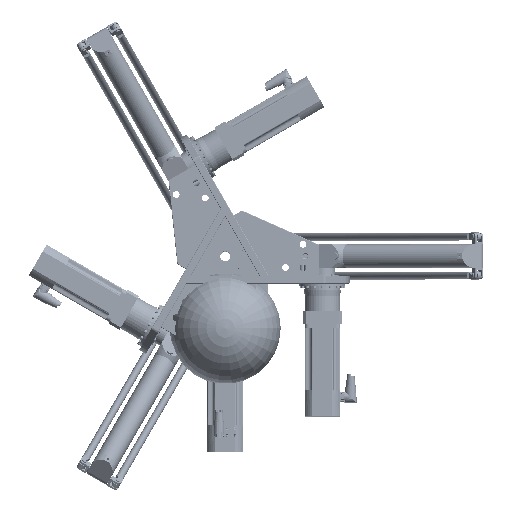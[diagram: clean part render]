
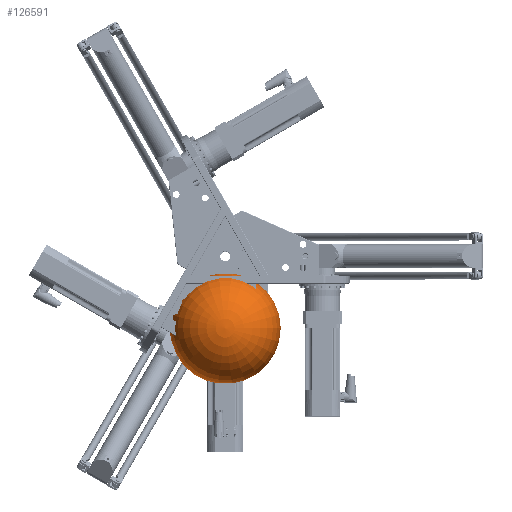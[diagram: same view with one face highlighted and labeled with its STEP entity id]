
A CAD part, top view. The second image highlights one B-rep face of the part: STEP entity #126591.
In plain terms, the highlighted toroidal (fillet/blend) face has major radius 0.044 mm and minor radius 142.912 mm.
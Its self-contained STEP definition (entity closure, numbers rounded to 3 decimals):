
#22440 = VERTEX_POINT ( 'NONE', #166593 ) ;
#35712 = TOROIDAL_SURFACE ( 'NONE', #38820, 0.044, 142.912 ) ;
#38820 = AXIS2_PLACEMENT_3D ( 'NONE', #168450, #108387, #64502 ) ;
#45625 = DIRECTION ( 'NONE',  ( 1., 0., 0. ) ) ;
#64502 = DIRECTION ( 'NONE',  ( 1., 0., 0. ) ) ;
#78188 = DIRECTION ( 'NONE',  ( 0., 0., 1. ) ) ;
#93934 = EDGE_CURVE ( 'NONE', #22440, #22440, #113173, .T. ) ;
#108387 = DIRECTION ( 'NONE',  ( 0., 0., 1. ) ) ;
#113173 = CIRCLE ( 'NONE', #122147, 23.703 ) ;
#122147 = AXIS2_PLACEMENT_3D ( 'NONE', #167757, #78188, #45625 ) ;
#126591 = ADVANCED_FACE ( 'NONE', ( #185292 ), #35712, .T. ) ;
#140632 = EDGE_LOOP ( 'NONE', ( #190180 ) ) ;
#166593 = CARTESIAN_POINT ( 'NONE',  ( 23.703, -185.84, -100.524 ) ) ;
#167757 = CARTESIAN_POINT ( 'NONE',  ( 0., -185.84, -100.524 ) ) ;
#168450 = CARTESIAN_POINT ( 'NONE',  ( 0., -185.84, 40.416 ) ) ;
#185292 = FACE_OUTER_BOUND ( 'NONE', #140632, .T. ) ;
#190180 = ORIENTED_EDGE ( 'NONE', *, *, #93934, .F. ) ;
